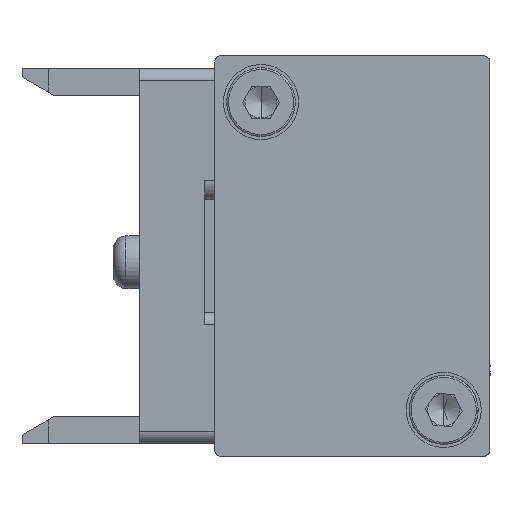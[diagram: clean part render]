
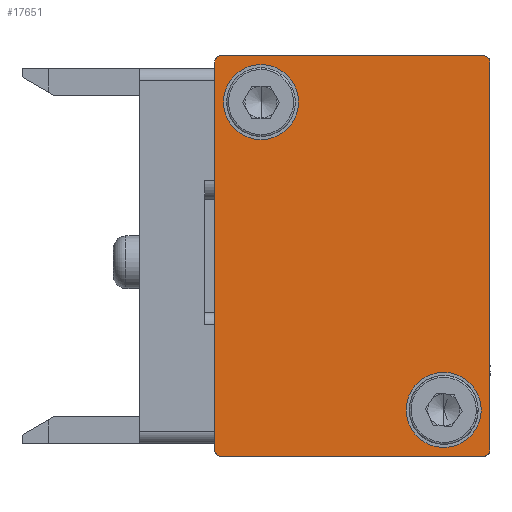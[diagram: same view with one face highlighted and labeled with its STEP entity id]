
A CAD part, left-side view. The second image highlights one B-rep face of the part: STEP entity #17651.
In plain terms, the highlighted planar face has unit normal (-1, 0, 0).
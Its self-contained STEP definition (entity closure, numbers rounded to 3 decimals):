
#226 = CIRCLE ( 'NONE', #9167, 0.5 ) ;
#1057 = PLANE ( 'NONE',  #10596 ) ;
#1640 = CARTESIAN_POINT ( 'NONE',  ( 0., 22., 0. ) ) ;
#1689 = CIRCLE ( 'NONE', #2609, 3. ) ;
#1709 = AXIS2_PLACEMENT_3D ( 'NONE', #8556, #4550, #6360 ) ;
#1732 = DIRECTION ( 'NONE',  ( 0., 1., 0. ) ) ;
#2082 = CARTESIAN_POINT ( 'NONE',  ( 0., 18.3, 28.3 ) ) ;
#2192 = AXIS2_PLACEMENT_3D ( 'NONE', #8397, #12555, #6278 ) ;
#2609 = AXIS2_PLACEMENT_3D ( 'NONE', #2082, #16540, #24960 ) ;
#2683 = AXIS2_PLACEMENT_3D ( 'NONE', #24441, #3555, #7836 ) ;
#2777 = ORIENTED_EDGE ( 'NONE', *, *, #8636, .F. ) ;
#2860 = VECTOR ( 'NONE', #7982, 1000. ) ;
#3420 = CARTESIAN_POINT ( 'NONE',  ( 0., 21.5, 32. ) ) ;
#3477 = CARTESIAN_POINT ( 'NONE',  ( 0., 0.5, 0. ) ) ;
#3525 = ORIENTED_EDGE ( 'NONE', *, *, #21089, .T. ) ;
#3555 = DIRECTION ( 'NONE',  ( -1., 0., 0. ) ) ;
#4396 = LINE ( 'NONE', #12414, #22630 ) ;
#4550 = DIRECTION ( 'NONE',  ( -1., 0., 0. ) ) ;
#4615 = AXIS2_PLACEMENT_3D ( 'NONE', #25939, #21643, #15589 ) ;
#4987 = ORIENTED_EDGE ( 'NONE', *, *, #12309, .F. ) ;
#5062 = DIRECTION ( 'NONE',  ( 0., 1., 0. ) ) ;
#5411 = EDGE_CURVE ( 'NONE', #5652, #13952, #26149, .T. ) ;
#5652 = VERTEX_POINT ( 'NONE', #24851 ) ;
#5655 = CARTESIAN_POINT ( 'NONE',  ( 0., 21.3, 28.3 ) ) ;
#5744 = CARTESIAN_POINT ( 'NONE',  ( 0., 6.7, 3.7 ) ) ;
#6066 = VERTEX_POINT ( 'NONE', #3420 ) ;
#6088 = EDGE_LOOP ( 'NONE', ( #21645, #21846 ) ) ;
#6198 = DIRECTION ( 'NONE',  ( 0., 1., 0. ) ) ;
#6278 = DIRECTION ( 'NONE',  ( 0., 1., 0. ) ) ;
#6325 = CIRCLE ( 'NONE', #2192, 0.5 ) ;
#6360 = DIRECTION ( 'NONE',  ( 0., -1., 0. ) ) ;
#6726 = AXIS2_PLACEMENT_3D ( 'NONE', #18856, #8489, #6198 ) ;
#6990 = EDGE_LOOP ( 'NONE', ( #18765, #7850 ) ) ;
#7310 = CARTESIAN_POINT ( 'NONE',  ( 0., 22., 0.5 ) ) ;
#7780 = AXIS2_PLACEMENT_3D ( 'NONE', #14813, #23459, #17288 ) ;
#7836 = DIRECTION ( 'NONE',  ( 0., -1., 0. ) ) ;
#7850 = ORIENTED_EDGE ( 'NONE', *, *, #17805, .F. ) ;
#7982 = DIRECTION ( 'NONE',  ( 0., 0., -1. ) ) ;
#8397 = CARTESIAN_POINT ( 'NONE',  ( 0., 21.5, 31.5 ) ) ;
#8489 = DIRECTION ( 'NONE',  ( 1., 0., 0. ) ) ;
#8556 = CARTESIAN_POINT ( 'NONE',  ( 0., 3.7, 3.7 ) ) ;
#8636 = EDGE_CURVE ( 'NONE', #16724, #11646, #25048, .T. ) ;
#8776 = EDGE_CURVE ( 'NONE', #18172, #15880, #26662, .T. ) ;
#8781 = EDGE_CURVE ( 'NONE', #13647, #22304, #226, .T. ) ;
#9083 = ORIENTED_EDGE ( 'NONE', *, *, #25997, .F. ) ;
#9167 = AXIS2_PLACEMENT_3D ( 'NONE', #12733, #21063, #21417 ) ;
#9434 = VERTEX_POINT ( 'NONE', #23596 ) ;
#9438 = DIRECTION ( 'NONE',  ( 1., 0., 0. ) ) ;
#10001 = VERTEX_POINT ( 'NONE', #5744 ) ;
#10067 = ORIENTED_EDGE ( 'NONE', *, *, #15545, .F. ) ;
#10596 = AXIS2_PLACEMENT_3D ( 'NONE', #15524, #9438, #5062 ) ;
#11646 = VERTEX_POINT ( 'NONE', #14597 ) ;
#11672 = CIRCLE ( 'NONE', #2683, 3. ) ;
#12309 = EDGE_CURVE ( 'NONE', #15880, #13647, #21804, .T. ) ;
#12414 = CARTESIAN_POINT ( 'NONE',  ( 0., 22., 32. ) ) ;
#12555 = DIRECTION ( 'NONE',  ( 1., 0., 0. ) ) ;
#12575 = CARTESIAN_POINT ( 'NONE',  ( 0., 21.5, 0. ) ) ;
#12733 = CARTESIAN_POINT ( 'NONE',  ( 0., 21.5, 0.5 ) ) ;
#12749 = FACE_BOUND ( 'NONE', #6990, .T. ) ;
#12811 = EDGE_LOOP ( 'NONE', ( #22453, #10067, #2777, #9083, #24134, #3525, #16947, #4987 ) ) ;
#13647 = VERTEX_POINT ( 'NONE', #12575 ) ;
#13674 = DIRECTION ( 'NONE',  ( 0., 0., -1. ) ) ;
#13952 = VERTEX_POINT ( 'NONE', #5655 ) ;
#14018 = EDGE_CURVE ( 'NONE', #9434, #6066, #6325, .T. ) ;
#14268 = LINE ( 'NONE', #20447, #2860 ) ;
#14597 = CARTESIAN_POINT ( 'NONE',  ( 0., 0., 31.5 ) ) ;
#14813 = CARTESIAN_POINT ( 'NONE',  ( 0., 0.5, 0.5 ) ) ;
#14939 = EDGE_CURVE ( 'NONE', #10001, #23454, #11672, .T. ) ;
#15124 = CIRCLE ( 'NONE', #1709, 3. ) ;
#15524 = CARTESIAN_POINT ( 'NONE',  ( 0., 22., 32. ) ) ;
#15545 = EDGE_CURVE ( 'NONE', #11646, #18172, #14268, .T. ) ;
#15589 = DIRECTION ( 'NONE',  ( 0., -1., 0. ) ) ;
#15670 = FACE_BOUND ( 'NONE', #6088, .T. ) ;
#15762 = LINE ( 'NONE', #16044, #23977 ) ;
#15880 = VERTEX_POINT ( 'NONE', #3477 ) ;
#16044 = CARTESIAN_POINT ( 'NONE',  ( 0., 22., 0. ) ) ;
#16386 = EDGE_CURVE ( 'NONE', #23454, #10001, #15124, .T. ) ;
#16540 = DIRECTION ( 'NONE',  ( -1., 0., 0. ) ) ;
#16724 = VERTEX_POINT ( 'NONE', #22847 ) ;
#16947 = ORIENTED_EDGE ( 'NONE', *, *, #8781, .F. ) ;
#17288 = DIRECTION ( 'NONE',  ( 0., 1., 0. ) ) ;
#17651 = ADVANCED_FACE ( 'NONE', ( #18298, #12749, #15670 ), #1057, .F. ) ;
#17805 = EDGE_CURVE ( 'NONE', #13952, #5652, #1689, .T. ) ;
#18172 = VERTEX_POINT ( 'NONE', #19769 ) ;
#18298 = FACE_OUTER_BOUND ( 'NONE', #12811, .T. ) ;
#18765 = ORIENTED_EDGE ( 'NONE', *, *, #5411, .F. ) ;
#18856 = CARTESIAN_POINT ( 'NONE',  ( 0., 0.5, 31.5 ) ) ;
#19769 = CARTESIAN_POINT ( 'NONE',  ( 0., 0., 0.5 ) ) ;
#20447 = CARTESIAN_POINT ( 'NONE',  ( 0., 0., 32. ) ) ;
#20554 = CARTESIAN_POINT ( 'NONE',  ( 0., 0.7, 3.7 ) ) ;
#21063 = DIRECTION ( 'NONE',  ( 1., 0., 0. ) ) ;
#21089 = EDGE_CURVE ( 'NONE', #9434, #22304, #15762, .T. ) ;
#21417 = DIRECTION ( 'NONE',  ( 0., 1., 0. ) ) ;
#21643 = DIRECTION ( 'NONE',  ( -1., 0., 0. ) ) ;
#21645 = ORIENTED_EDGE ( 'NONE', *, *, #16386, .F. ) ;
#21804 = LINE ( 'NONE', #1640, #25105 ) ;
#21846 = ORIENTED_EDGE ( 'NONE', *, *, #14939, .F. ) ;
#22304 = VERTEX_POINT ( 'NONE', #7310 ) ;
#22453 = ORIENTED_EDGE ( 'NONE', *, *, #8776, .F. ) ;
#22630 = VECTOR ( 'NONE', #23236, 1000. ) ;
#22847 = CARTESIAN_POINT ( 'NONE',  ( 0., 0.5, 32. ) ) ;
#23236 = DIRECTION ( 'NONE',  ( 0., -1., 0. ) ) ;
#23454 = VERTEX_POINT ( 'NONE', #20554 ) ;
#23459 = DIRECTION ( 'NONE',  ( 1., 0., 0. ) ) ;
#23596 = CARTESIAN_POINT ( 'NONE',  ( 0., 22., 31.5 ) ) ;
#23977 = VECTOR ( 'NONE', #13674, 1000. ) ;
#24134 = ORIENTED_EDGE ( 'NONE', *, *, #14018, .F. ) ;
#24441 = CARTESIAN_POINT ( 'NONE',  ( 0., 3.7, 3.7 ) ) ;
#24851 = CARTESIAN_POINT ( 'NONE',  ( 0., 15.3, 28.3 ) ) ;
#24960 = DIRECTION ( 'NONE',  ( 0., -1., 0. ) ) ;
#25048 = CIRCLE ( 'NONE', #6726, 0.5 ) ;
#25105 = VECTOR ( 'NONE', #1732, 1000. ) ;
#25939 = CARTESIAN_POINT ( 'NONE',  ( 0., 18.3, 28.3 ) ) ;
#25997 = EDGE_CURVE ( 'NONE', #6066, #16724, #4396, .T. ) ;
#26149 = CIRCLE ( 'NONE', #4615, 3. ) ;
#26662 = CIRCLE ( 'NONE', #7780, 0.5 ) ;
